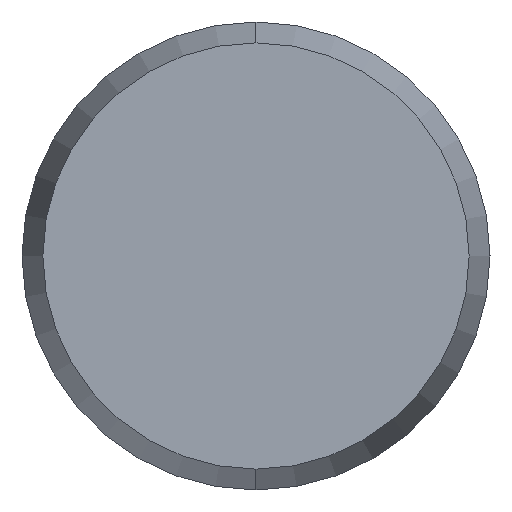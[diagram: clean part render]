
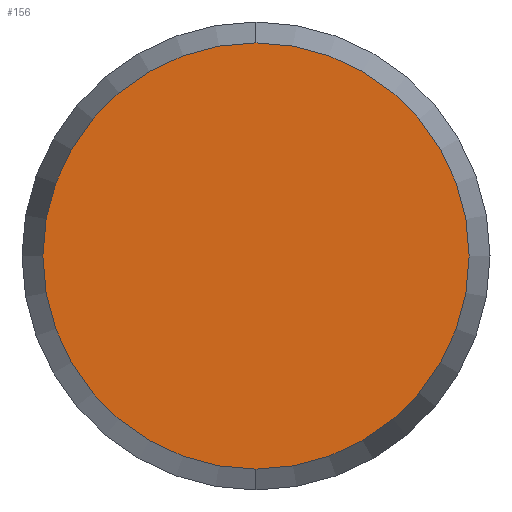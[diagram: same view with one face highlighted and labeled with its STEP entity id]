
A CAD part, left-side view. The second image highlights one B-rep face of the part: STEP entity #156.
In plain terms, the highlighted planar face has unit normal (-1, 0, 0).
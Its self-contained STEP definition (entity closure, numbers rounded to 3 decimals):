
#56 = DIRECTION ( 'NONE',  ( 0., 0., -1. ) ) ;
#57 = DIRECTION ( 'NONE',  ( 1., 0., 0. ) ) ;
#58 = CARTESIAN_POINT ( 'NONE',  ( -14., 0., 0. ) ) ;
#59 = AXIS2_PLACEMENT_3D ( 'NONE', #58, #57, #56 ) ;
#60 = CIRCLE ( 'NONE', #59, 2.732 ) ;
#64 = CARTESIAN_POINT ( 'NONE',  ( -14., 0., 2.732 ) ) ;
#95 = CARTESIAN_POINT ( 'NONE',  ( -14., 0., -2.732 ) ) ;
#96 = DIRECTION ( 'NONE',  ( 0., 0., -1. ) ) ;
#97 = DIRECTION ( 'NONE',  ( 1., 0., 0. ) ) ;
#98 = CARTESIAN_POINT ( 'NONE',  ( -14., 0., 0. ) ) ;
#99 = AXIS2_PLACEMENT_3D ( 'NONE', #98, #97, #96 ) ;
#100 = CIRCLE ( 'NONE', #99, 2.732 ) ;
#146 = DIRECTION ( 'NONE',  ( 0., 0., -1. ) ) ;
#147 = DIRECTION ( 'NONE',  ( 1., 0., 0. ) ) ;
#148 = CARTESIAN_POINT ( 'NONE',  ( -14., 0., 0. ) ) ;
#149 = AXIS2_PLACEMENT_3D ( 'NONE', #148, #147, #146 ) ;
#151 = PLANE ( 'NONE',  #149 ) ;
#152 = FACE_OUTER_BOUND ( 'NONE', #157, .T. ) ;
#156 = ADVANCED_FACE ( 'NONE', ( #152 ), #151, .F. ) ;
#157 = EDGE_LOOP ( 'NONE', ( #158, #159 ) ) ;
#158 = ORIENTED_EDGE ( 'NONE', *, *, #213, .F. ) ;
#159 = ORIENTED_EDGE ( 'NONE', *, *, #176, .F. ) ;
#173 = VERTEX_POINT ( 'NONE', #64 ) ;
#176 = EDGE_CURVE ( 'NONE', #214, #173, #60, .T. ) ;
#213 = EDGE_CURVE ( 'NONE', #173, #214, #100, .T. ) ;
#214 = VERTEX_POINT ( 'NONE', #95 ) ;
